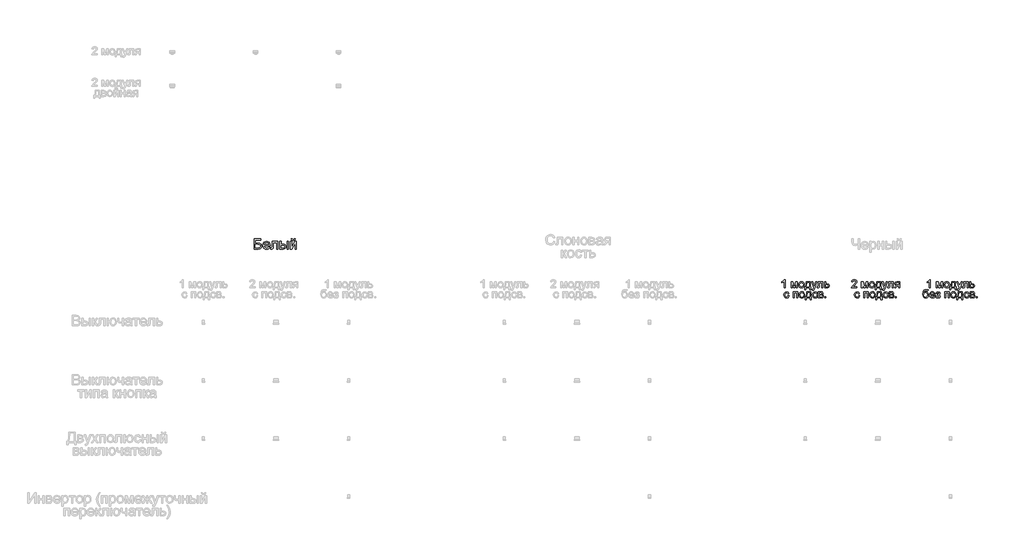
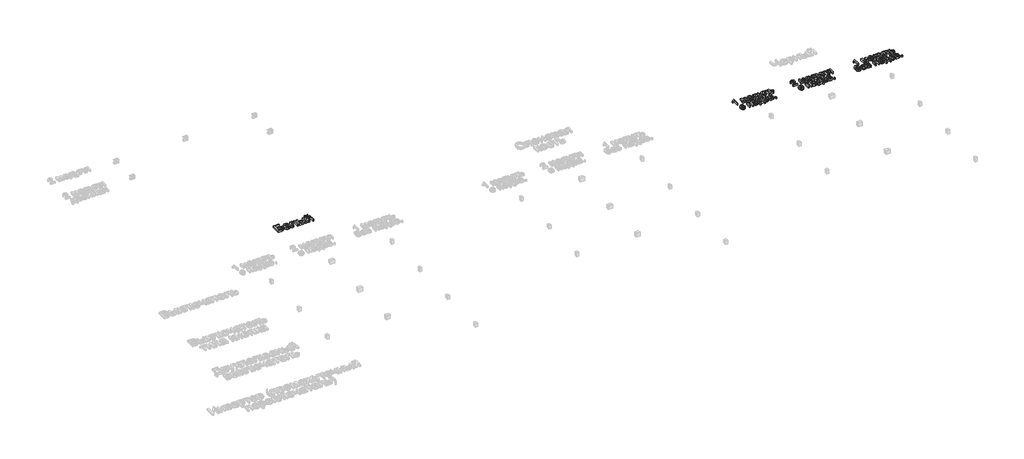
# One storey, part 21 of 47: 4 proxies.
"""IFC4 building model written with IfcOpenShell, lengths in millimetres."""

from ifc_helpers import new_model, si_unit, origin, origin_with_axes, place, context, project, spatial, polyline, outline, extrude, element, save

model = new_model("IFC4")

# Units and contexts
model_context = context("Model", 3, world=origin())
ifc_project = project(units=[si_unit("LENGTHUNIT", "METRE", prefix="MILLI")], contexts=[model_context])

# Site, building, storey
site = spatial("IfcSite", under=ifc_project)
building = spatial("IfcBuilding", under=site)
storey = spatial("IfcBuildingStorey", under=building, Name="Этаж 01", Elevation=0.0)

# Proxies
placement = place(None, origin())
element("IfcBuildingElementProxy", 1, Name="100 мм Arial", ObjectType="100 мм Arial", at=placement, inside=storey, context=model_context, shape_type="SweptSolid", body=[
    extrude(outline(polyline([(794.3727236, -27826.6351603), (857.1579174, -27826.6351603), (857.1579174, -27839.1921991), (806.9297624, -27839.1921991), (806.9297624, -27869.0151662), (830.4496846, -27869.0151662), (851.1737036, -27871.5658147), (863.5100132, -27881.204323), (868.1453263, -27897.6854363), (864.8466511, -27911.996046), (854.9996764, -27922.8730903), (832.7060275, -27927.0914705), (794.3727236, -27927.0914705), (794.3727236, -27826.6351603)]), holes=[polyline([(806.9297624, -27914.5344317), (833.8341989, -27914.5344317), (850.1436341, -27910.3896279), (854.2271242, -27905.2086231), (855.5882876, -27897.9552165), (852.4735534, -27888.1205045), (843.803801, -27882.8720547), (824.8824037, -27881.572205), (806.9297624, -27881.572205), (806.9297624, -27914.5344317)])]), origin_with_axes(), (0.0, 0.0, 1.0), 20.0),
    extrude(outline(polyline([(935.4922569, -27905.1166526), (947.804041, -27906.6862825), (943.3679973, -27915.9630401), (936.2893346, -27922.8976157), (926.7274684, -27927.2202292), (914.8418143, -27928.6611003), (900.1081404, -27926.1748312), (888.7712435, -27918.7160237), (881.5423623, -27906.7690559), (879.1327353, -27890.8183058), (881.5668878, -27874.331061), (888.8693454, -27862.0008828), (900.0529581, -27854.3121491), (914.1305757, -27851.7492379), (927.7698007, -27854.3060177), (938.6683048, -27861.9763573), (945.8144126, -27874.2820101), (948.1964485, -27890.7447294), (948.1228721, -27894.1292437), (891.689774, -27894.1292437), (893.8633435, -27903.5286287), (898.9125239, -27910.4386788), (906.1996531, -27914.6877159), (915.0870689, -27916.1040616), (927.398853, -27913.4798367), (935.4922569, -27905.1166526)]), holes=[polyline([(891.689774, -27881.572205), (935.6394097, -27881.572205), (930.6116891, -27870.1923886), (923.2908374, -27865.7778046), (914.0815248, -27864.3062766), (898.6182183, -27869.0029034), (893.7529789, -27874.4935422), (891.689774, -27881.572205)])]), origin_with_axes(), (0.0, 0.0, 1.0), 20.0),
    extrude(outline(polyline([(967.0320067, -27853.3188677), (1023.5386811, -27853.3188677), (1023.5386811, -27927.0178941), (1010.9816423, -27927.0178941), (1010.9816423, -27865.8759065), (979.5890454, -27865.8759065), (979.5890454, -27901.0699507), (978.7429168, -27917.3058094), (974.095341, -27924.1606773), (963.107932, -27927.0914705), (952.905338, -27926.4538084), (952.905338, -27914.5344317), (958.5216698, -27914.5344317), (964.1993153, -27913.7618795), (966.4679209, -27911.3093329), (967.0320067, -27900.3587122), (967.0320067, -27853.3188677)])), origin_with_axes(), (0.0, 0.0, 1.0), 20.0),
    extrude(outline(polyline([(1111.4379525, -27853.3188677), (1123.9949913, -27853.3188677), (1123.9949913, -27927.0914705), (1111.4379525, -27927.0914705), (1111.4379525, -27853.3188677)])), origin_with_axes(), (0.0, 0.0, 1.0), 20.0),
    extrude(outline(polyline([(1042.3742393, -27853.3188677), (1054.931278, -27853.3188677), (1054.931278, -27880.0025751), (1070.4558982, -27880.0025751), (1083.874394, -27881.5752706), (1093.8164049, -27886.2933572), (1099.9692313, -27893.7766901), (1102.0201734, -27903.6451247), (1100.3003251, -27912.6306424), (1095.1407801, -27920.2120772), (1086.2043133, -27925.3716222), (1073.1536995, -27927.0914705), (1042.3742393, -27927.0914705), (1042.3742393, -27853.3188677)]), holes=[polyline([(1054.931278, -27914.5344317), (1067.8316733, -27914.5344317), (1084.484465, -27911.8979441), (1089.4631346, -27903.6696501), (1085.772052, -27895.9441282), (1069.4748796, -27892.5596139), (1054.931278, -27892.5596139), (1054.931278, -27914.5344317)])]), origin_with_axes(), (0.0, 0.0, 1.0), 20.0),
    extrude(outline(polyline([(1183.6409254, -27826.6351603), (1193.0587045, -27826.6351603), (1186.9641261, -27840.6024134), (1173.4383314, -27845.4707185), (1158.796628, -27840.6392016), (1152.2483285, -27826.6351603), (1161.6661076, -27826.6351603), (1165.1977747, -27833.7107574), (1172.31016, -27836.0529394), (1180.1092583, -27833.7843338), (1183.6409254, -27826.6351603)])), origin_with_axes(), (0.0, 0.0, 1.0), 20.0),
    extrude(outline(polyline([(1142.8305494, -27853.3188677), (1155.3875882, -27853.3188677), (1155.3875882, -27909.5802875), (1186.2406248, -27853.3188677), (1202.4764836, -27853.3188677), (1202.4764836, -27927.0914705), (1189.9194448, -27927.0914705), (1189.9194448, -27871.1734072), (1159.2626119, -27927.0914705), (1142.8305494, -27927.0914705), (1142.8305494, -27853.3188677)])), origin_with_axes(), (0.0, 0.0, 1.0), 20.0),
])
element("IfcBuildingElementProxy", 2, Name="80 мм Arial", ObjectType="80 мм Arial", at=placement, inside=storey, context=model_context, shape_type="SweptSolid", body=[
    extrude(outline(polyline([(5910.6688941, -28300.056116), (5900.6232631, -28300.056116), (5900.6232631, -28237.4278852), (5891.1073822, -28244.2067241), (5880.5320011, -28249.2785905), (5880.5320011, -28239.78233), (5895.2570911, -28230.3841713), (5904.194171, -28219.6910679), (5910.6688941, -28219.6910679), (5910.6688941, -28300.056116)])), origin_with_axes(), (0.0, 0.0, 1.0), 20.0),
    extrude(outline(polyline([(5968.4312724, -28241.0380338), (5985.7168211, -28241.0380338), (5999.0390544, -28288.2838922), (6013.4011675, -28241.0380338), (6029.9607624, -28241.0380338), (6029.9607624, -28300.056116), (6019.9151314, -28300.056116), (6019.9151314, -28252.5355725), (6005.4745368, -28300.056116), (5992.2896461, -28300.056116), (5978.4769035, -28250.2596092), (5978.4769035, -28300.056116), (5968.4312724, -28300.056116), (5968.4312724, -28241.0380338)])), origin_with_axes(), (0.0, 0.0, 1.0), 20.0),
    extrude(outline(polyline([(6042.5178012, -28270.5470749), (6044.6907575, -28256.3173994), (6051.2096265, -28246.3159142), (6059.2637896, -28241.415726), (6068.907203, -28239.78233), (6079.4605111, -28241.7713453), (6087.8899139, -28247.7383912), (6093.4155015, -28257.2125789), (6095.257364, -28269.7230193), (6092.0003821, -28287.5971791), (6082.5139317, -28297.7114815), (6068.907203, -28301.3118199), (6058.2263624, -28299.3301622), (6049.8067698, -28293.3851892), (6044.3400433, -28283.7123453), (6042.5178012, -28270.5470749)]), holes=[polyline([(6052.5634322, -28270.5274546), (6057.2134606, -28286.0962206), (6068.907203, -28291.2661889), (6080.5617046, -28286.06679), (6085.211733, -28270.2135286), (6080.532274, -28254.9979293), (6068.907203, -28249.827961), (6057.2134606, -28254.9783089), (6052.5634322, -28270.5274546)])]), origin_with_axes(), (0.0, 0.0, 1.0), 20.0),
    extrude(outline(polyline([(6115.348626, -28241.0380338), (6153.0197423, -28241.0380338), (6153.0197423, -28290.010485), (6160.5539656, -28290.010485), (6160.5539656, -28316.3802664), (6150.5083346, -28316.3802664), (6150.5083346, -28300.056116), (6109.0701067, -28300.056116), (6109.0701067, -28316.3802664), (6099.0244756, -28316.3802664), (6099.0244756, -28290.010485), (6105.302995, -28290.010485), (6113.0628526, -28270.8511907), (6115.348626, -28241.0380338)]), holes=[polyline([(6124.1385532, -28251.0836649), (6121.7841084, -28273.97083), (6116.6043299, -28290.010485), (6142.9741113, -28290.010485), (6142.9741113, -28251.0836649), (6124.1385532, -28251.0836649)])]), origin_with_axes(), (0.0, 0.0, 1.0), 20.0),
    extrude(outline(polyline([(6171.8553005, -28322.6587858), (6170.5995966, -28312.9859419), (6175.7008936, -28313.8688587), (6180.4686443, -28312.7603076), (6183.3920799, -28309.6700989), (6186.1389321, -28302.2732182), (6186.923747, -28299.8402919), (6165.5767811, -28241.0380338), (6176.1717826, -28241.0380338), (6187.4927378, -28273.8040569), (6191.4364328, -28286.9104661), (6195.3801278, -28275.334446), (6207.0150091, -28241.0380338), (6217.531529, -28241.0380338), (6196.9889984, -28301.4687829), (6191.6522569, -28314.5751921), (6185.8250061, -28321.6581468), (6177.9964773, -28323.9144897), (6171.8553005, -28322.6587858)])), origin_with_axes(), (0.0, 0.0, 1.0), 20.0),
    extrude(outline(polyline([(6230.8733827, -28241.0380338), (6276.0787223, -28241.0380338), (6276.0787223, -28299.9972549), (6266.0330913, -28299.9972549), (6266.0330913, -28251.0836649), (6240.9190137, -28251.0836649), (6240.9190137, -28279.2389002), (6240.2421109, -28292.2275872), (6236.5240502, -28297.7114815), (6227.734123, -28300.056116), (6219.5720478, -28299.5459863), (6219.5720478, -28290.010485), (6224.0651133, -28290.010485), (6228.6072296, -28289.3924433), (6230.4221141, -28287.430406), (6230.8733827, -28278.6699094), (6230.8733827, -28241.0380338)])), origin_with_axes(), (0.0, 0.0, 1.0), 20.0),
    extrude(outline(polyline([(6291.1471688, -28241.0380338), (6301.1927998, -28241.0380338), (6301.1927998, -28262.3849997), (6312.7688199, -28262.3849997), (6330.230952, -28267.4176254), (6334.8221193, -28273.4042918), (6336.3525084, -28281.2990394), (6331.1432993, -28294.5526014), (6324.3718181, -28298.6802374), (6314.4757924, -28300.056116), (6291.1471688, -28300.056116), (6291.1471688, -28241.0380338)]), holes=[polyline([(6301.1927998, -28290.010485), (6310.5713381, -28290.010485), (6322.6869185, -28287.9012949), (6326.3068774, -28281.3186598), (6323.6286964, -28275.1382422), (6311.7681809, -28272.4306308), (6301.1927998, -28272.4306308), (6301.1927998, -28290.010485)])]), origin_with_axes(), (0.0, 0.0, 1.0), 20.0),
    extrude(outline(polyline([(5938.9222313, -28376.2890044), (5948.9678624, -28377.5447083), (5946.1670541, -28386.4793357), (5940.903889, -28393.2311966), (5924.9721461, -28398.8916742), (5914.2864004, -28396.9173742), (5905.930574, -28390.994474), (5900.537424, -28381.3829438), (5898.7397073, -28368.3427533), (5901.8102957, -28351.655626), (5911.1692136, -28340.9330921), (5924.8348035, -28337.3621842), (5940.1092639, -28342.2672775), (5947.7121585, -28356.1977424), (5937.6665275, -28357.4534463), (5933.0066889, -28349.9290332), (5924.913285, -28347.4078153), (5913.2685935, -28352.3717696), (5908.7853383, -28368.0680681), (5913.1704917, -28383.9115194), (5924.6385997, -28388.8460432), (5934.1054298, -28385.7656446), (5938.9222313, -28376.2890044)])), origin_with_axes(), (0.0, 0.0, 1.0), 20.0),
    extrude(outline(polyline([(5989.1503864, -28338.6178881), (6034.355726, -28338.6178881), (6034.355726, -28397.6359703), (6024.310095, -28397.6359703), (6024.310095, -28348.6635191), (5999.1960174, -28348.6635191), (5999.1960174, -28397.6359703), (5989.1503864, -28397.6359703), (5989.1503864, -28338.6178881)])), origin_with_axes(), (0.0, 0.0, 1.0), 20.0),
    extrude(outline(polyline([(6046.9127648, -28368.1269292), (6049.0857211, -28353.8972536), (6055.60459, -28343.8957685), (6063.6587532, -28338.9955803), (6073.3021665, -28337.3621842), (6083.8554747, -28339.3511996), (6092.2848775, -28345.3182455), (6097.8104651, -28354.7924332), (6099.6523276, -28367.3028736), (6096.3953457, -28385.1770334), (6086.9088953, -28395.2913357), (6073.3021665, -28398.8916742), (6062.6213259, -28396.9100165), (6054.2017334, -28390.9650435), (6048.7350069, -28381.2921996), (6046.9127648, -28368.1269292)]), holes=[polyline([(6056.9583958, -28368.1073088), (6061.6084242, -28383.6760749), (6073.3021665, -28388.8460432), (6084.9566681, -28383.6466443), (6089.6066966, -28367.7933829), (6084.9272376, -28352.5777836), (6073.3021665, -28347.4078153), (6061.6084242, -28352.5581632), (6056.9583958, -28368.1073088)])]), origin_with_axes(), (0.0, 0.0, 1.0), 20.0),
    extrude(outline(polyline([(6119.7435896, -28338.6178881), (6157.4147059, -28338.6178881), (6157.4147059, -28387.5903393), (6164.9489292, -28387.5903393), (6164.9489292, -28413.9601207), (6154.9032982, -28413.9601207), (6154.9032982, -28397.6359703), (6113.4650702, -28397.6359703), (6113.4650702, -28413.9601207), (6103.4194392, -28413.9601207), (6103.4194392, -28387.5903393), (6109.6979586, -28387.5903393), (6117.4578161, -28368.431045), (6119.7435896, -28338.6178881)]), holes=[polyline([(6128.5335167, -28348.6635191), (6126.179072, -28371.5506843), (6120.9992935, -28387.5903393), (6147.3690749, -28387.5903393), (6147.3690749, -28348.6635191), (6128.5335167, -28348.6635191)])]), origin_with_axes(), (0.0, 0.0, 1.0), 20.0),
    extrude(outline(polyline([(6213.9213804, -28376.2890044), (6223.9670114, -28377.5447083), (6221.1662031, -28386.4793357), (6215.9030381, -28393.2311966), (6199.9712951, -28398.8916742), (6189.2855494, -28396.9173742), (6180.929723, -28390.994474), (6175.536573, -28381.3829438), (6173.7388563, -28368.3427533), (6176.8094447, -28351.655626), (6186.1683627, -28340.9330921), (6199.8339525, -28337.3621842), (6215.1084129, -28342.2672775), (6222.7113075, -28356.1977424), (6212.6656765, -28357.4534463), (6208.0058379, -28349.9290332), (6199.912434, -28347.4078153), (6188.2677426, -28352.3717696), (6183.7844873, -28368.0680681), (6188.1696407, -28383.9115194), (6199.6377488, -28388.8460432), (6209.1045788, -28385.7656446), (6213.9213804, -28376.2890044)])), origin_with_axes(), (0.0, 0.0, 1.0), 20.0),
    extrude(outline(polyline([(6232.7569385, -28338.6178881), (6254.8887194, -28338.6178881), (6267.0239201, -28339.9618837), (6273.8518099, -28344.8865973), (6276.7065742, -28353.4705105), (6274.9799814, -28360.4455532), (6269.7805825, -28365.4193177), (6276.5299909, -28370.8639713), (6279.217982, -28380.3308013), (6273.4692127, -28393.3783494), (6258.2830439, -28397.6359703), (6232.7569385, -28397.6359703), (6232.7569385, -28338.6178881)]), holes=[polyline([(6242.8025695, -28361.2205579), (6252.7304783, -28361.2205579), (6260.9219841, -28360.7104282), (6264.9049198, -28358.6699094), (6266.6609432, -28354.9812793), (6263.5805446, -28350.0565656), (6253.0444043, -28348.6635191), (6242.8025695, -28348.6635191), (6242.8025695, -28361.2205579)]), polyline([(6242.8025695, -28387.5903393), (6255.1241638, -28387.5903393), (6266.0527116, -28385.7754548), (6269.172351, -28379.5067456), (6267.4555683, -28374.6703236), (6262.9821233, -28371.8548001), (6254.1431452, -28371.2661889), (6242.8025695, -28371.2661889), (6242.8025695, -28387.5903393)])]), origin_with_axes(), (0.0, 0.0, 1.0), 20.0),
    extrude(outline(polyline([(6294.2864285, -28397.6359703), (6294.2864285, -28387.5903393), (6304.3320595, -28387.5903393), (6304.3320595, -28397.6359703), (6294.2864285, -28397.6359703)])), origin_with_axes(), (0.0, 0.0, 1.0), 20.0),
])
element("IfcBuildingElementProxy", 3, Name="80 мм Arial", ObjectType="80 мм Arial", at=placement, inside=storey, context=model_context, shape_type="SweptSolid", body=[
    extrude(outline(polyline([(6603.2259329, -28290.010485), (6603.2259329, -28300.056116), (6550.4863701, -28300.056116), (6551.5654906, -28293.1301244), (6557.6674266, -28282.4664516), (6570.2440857, -28270.8217602), (6587.5884955, -28254.0855819), (6591.924598, -28242.7057655), (6587.8337502, -28233.4940004), (6577.1504571, -28229.7366989), (6566.0158953, -28233.4057087), (6561.7877049, -28243.5494416), (6551.7420739, -28242.2937377), (6554.1774527, -28232.5767479), (6559.4430704, -28225.479078), (6567.2642416, -28221.1380704), (6577.3662812, -28219.6910679), (6587.5418972, -28221.2999385), (6595.3483531, -28226.1265503), (6600.31476, -28233.3370374), (6601.970229, -28242.097534), (6600.1847751, -28251.6232251), (6594.2496122, -28261.4726524), (6579.8580685, -28275.2363441), (6568.3016688, -28284.8993778), (6563.7693626, -28290.010485), (6603.2259329, -28290.010485)])), origin_with_axes(), (0.0, 0.0, 1.0), 20.0),
    extrude(outline(polyline([(6647.1755686, -28241.0380338), (6664.4611173, -28241.0380338), (6677.7833506, -28288.2838922), (6692.1454637, -28241.0380338), (6708.7050585, -28241.0380338), (6708.7050585, -28300.056116), (6698.6594275, -28300.056116), (6698.6594275, -28252.5355725), (6684.2188329, -28300.056116), (6671.0339422, -28300.056116), (6657.2211996, -28250.2596092), (6657.2211996, -28300.056116), (6647.1755686, -28300.056116), (6647.1755686, -28241.0380338)])), origin_with_axes(), (0.0, 0.0, 1.0), 20.0),
    extrude(outline(polyline([(6721.2620973, -28270.5470749), (6723.4350536, -28256.3173994), (6729.9539226, -28246.3159142), (6738.0080857, -28241.415726), (6747.6514991, -28239.78233), (6758.2048073, -28241.7713453), (6766.63421, -28247.7383912), (6772.1597976, -28257.2125789), (6774.0016601, -28269.7230193), (6770.7446782, -28287.5971791), (6761.2582278, -28297.7114815), (6747.6514991, -28301.3118199), (6736.9706585, -28299.3301622), (6728.5510659, -28293.3851892), (6723.0843395, -28283.7123453), (6721.2620973, -28270.5470749)]), holes=[polyline([(6731.3077283, -28270.5274546), (6735.9577567, -28286.0962206), (6747.6514991, -28291.2661889), (6759.3060007, -28286.06679), (6763.9560291, -28270.2135286), (6759.2765701, -28254.9979293), (6747.6514991, -28249.827961), (6735.9577567, -28254.9783089), (6731.3077283, -28270.5274546)])]), origin_with_axes(), (0.0, 0.0, 1.0), 20.0),
    extrude(outline(polyline([(6794.0929222, -28241.0380338), (6831.7640385, -28241.0380338), (6831.7640385, -28290.010485), (6839.2982617, -28290.010485), (6839.2982617, -28316.3802664), (6829.2526307, -28316.3802664), (6829.2526307, -28300.056116), (6787.8144028, -28300.056116), (6787.8144028, -28316.3802664), (6777.7687718, -28316.3802664), (6777.7687718, -28290.010485), (6784.0472911, -28290.010485), (6791.8071487, -28270.8511907), (6794.0929222, -28241.0380338)]), holes=[polyline([(6802.8828493, -28251.0836649), (6800.5284045, -28273.97083), (6795.348626, -28290.010485), (6821.7184075, -28290.010485), (6821.7184075, -28251.0836649), (6802.8828493, -28251.0836649)])]), origin_with_axes(), (0.0, 0.0, 1.0), 20.0),
    extrude(outline(polyline([(6850.5995966, -28322.6587858), (6849.3438927, -28312.9859419), (6854.4451897, -28313.8688587), (6859.2129404, -28312.7603076), (6862.136376, -28309.6700989), (6864.8832282, -28302.2732182), (6865.6680431, -28299.8402919), (6844.3210772, -28241.0380338), (6854.9160787, -28241.0380338), (6866.237034, -28273.8040569), (6870.180729, -28286.9104661), (6874.1244239, -28275.334446), (6885.7593052, -28241.0380338), (6896.2758251, -28241.0380338), (6875.7332945, -28301.4687829), (6870.3965531, -28314.5751921), (6864.5693023, -28321.6581468), (6856.7407734, -28323.9144897), (6850.5995966, -28322.6587858)])), origin_with_axes(), (0.0, 0.0, 1.0), 20.0),
    extrude(outline(polyline([(6909.6176788, -28241.0380338), (6954.8230184, -28241.0380338), (6954.8230184, -28299.9972549), (6944.7773874, -28299.9972549), (6944.7773874, -28251.0836649), (6919.6633099, -28251.0836649), (6919.6633099, -28279.2389002), (6918.986407, -28292.2275872), (6915.2683463, -28297.7114815), (6906.4784191, -28300.056116), (6898.3163439, -28299.5459863), (6898.3163439, -28290.010485), (6902.8094094, -28290.010485), (6907.3515257, -28289.3924433), (6909.1664103, -28287.430406), (6909.6176788, -28278.6699094), (6909.6176788, -28241.0380338)])), origin_with_axes(), (0.0, 0.0, 1.0), 20.0),
    extrude(outline(polyline([(7015.0968045, -28241.0380338), (7015.0968045, -28300.056116), (7005.0511735, -28300.056116), (7005.0511735, -28277.4534463), (6999.5770894, -28277.4534463), (6992.1213476, -28278.7287705), (6985.1168744, -28287.3028736), (6977.1117622, -28300.056116), (6965.4965014, -28300.056116), (6975.5813731, -28283.9281694), (6984.1358558, -28275.5698905), (6972.4421134, -28269.4679544), (6968.635761, -28258.088138), (6973.8351599, -28245.7665437), (6988.8839861, -28241.0380338), (7015.0968045, -28241.0380338)]), holes=[polyline([(7005.0511735, -28251.0836649), (6991.8074217, -28251.0836649), (6981.0848878, -28253.4086791), (6978.6813921, -28258.8533326), (6982.2228694, -28265.3378659), (6994.770098, -28267.4078153), (7005.0511735, -28267.4078153), (7005.0511735, -28251.0836649)])]), origin_with_axes(), (0.0, 0.0, 1.0), 20.0),
    extrude(outline(polyline([(6618.9222313, -28376.2890044), (6628.9678624, -28377.5447083), (6626.1670541, -28386.4793357), (6620.903889, -28393.2311966), (6604.9721461, -28398.8916742), (6594.2864004, -28396.9173742), (6585.930574, -28390.994474), (6580.537424, -28381.3829438), (6578.7397073, -28368.3427533), (6581.8102957, -28351.655626), (6591.1692136, -28340.9330921), (6604.8348035, -28337.3621842), (6620.1092639, -28342.2672775), (6627.7121585, -28356.1977424), (6617.6665275, -28357.4534463), (6613.0066889, -28349.9290332), (6604.913285, -28347.4078153), (6593.2685935, -28352.3717696), (6588.7853383, -28368.0680681), (6593.1704917, -28383.9115194), (6604.6385997, -28388.8460432), (6614.1054298, -28385.7656446), (6618.9222313, -28376.2890044)])), origin_with_axes(), (0.0, 0.0, 1.0), 20.0),
    extrude(outline(polyline([(6669.1503864, -28338.6178881), (6714.355726, -28338.6178881), (6714.355726, -28397.6359703), (6704.310095, -28397.6359703), (6704.310095, -28348.6635191), (6679.1960174, -28348.6635191), (6679.1960174, -28397.6359703), (6669.1503864, -28397.6359703), (6669.1503864, -28338.6178881)])), origin_with_axes(), (0.0, 0.0, 1.0), 20.0),
    extrude(outline(polyline([(6726.9127648, -28368.1269292), (6729.0857211, -28353.8972536), (6735.60459, -28343.8957685), (6743.6587532, -28338.9955803), (6753.3021665, -28337.3621842), (6763.8554747, -28339.3511996), (6772.2848775, -28345.3182455), (6777.8104651, -28354.7924332), (6779.6523276, -28367.3028736), (6776.3953457, -28385.1770334), (6766.9088953, -28395.2913357), (6753.3021665, -28398.8916742), (6742.6213259, -28396.9100165), (6734.2017334, -28390.9650435), (6728.7350069, -28381.2921996), (6726.9127648, -28368.1269292)]), holes=[polyline([(6736.9583958, -28368.1073088), (6741.6084242, -28383.6760749), (6753.3021665, -28388.8460432), (6764.9566681, -28383.6466443), (6769.6066966, -28367.7933829), (6764.9272376, -28352.5777836), (6753.3021665, -28347.4078153), (6741.6084242, -28352.5581632), (6736.9583958, -28368.1073088)])]), origin_with_axes(), (0.0, 0.0, 1.0), 20.0),
    extrude(outline(polyline([(6799.7435896, -28338.6178881), (6837.4147059, -28338.6178881), (6837.4147059, -28387.5903393), (6844.9489292, -28387.5903393), (6844.9489292, -28413.9601207), (6834.9032982, -28413.9601207), (6834.9032982, -28397.6359703), (6793.4650702, -28397.6359703), (6793.4650702, -28413.9601207), (6783.4194392, -28413.9601207), (6783.4194392, -28387.5903393), (6789.6979586, -28387.5903393), (6797.4578161, -28368.431045), (6799.7435896, -28338.6178881)]), holes=[polyline([(6808.5335167, -28348.6635191), (6806.179072, -28371.5506843), (6800.9992935, -28387.5903393), (6827.3690749, -28387.5903393), (6827.3690749, -28348.6635191), (6808.5335167, -28348.6635191)])]), origin_with_axes(), (0.0, 0.0, 1.0), 20.0),
    extrude(outline(polyline([(6893.9213804, -28376.2890044), (6903.9670114, -28377.5447083), (6901.1662031, -28386.4793357), (6895.9030381, -28393.2311966), (6879.9712951, -28398.8916742), (6869.2855494, -28396.9173742), (6860.929723, -28390.994474), (6855.536573, -28381.3829438), (6853.7388563, -28368.3427533), (6856.8094447, -28351.655626), (6866.1683627, -28340.9330921), (6879.8339525, -28337.3621842), (6895.1084129, -28342.2672775), (6902.7113075, -28356.1977424), (6892.6656765, -28357.4534463), (6888.0058379, -28349.9290332), (6879.912434, -28347.4078153), (6868.2677426, -28352.3717696), (6863.7844873, -28368.0680681), (6868.1696407, -28383.9115194), (6879.6377488, -28388.8460432), (6889.1045788, -28385.7656446), (6893.9213804, -28376.2890044)])), origin_with_axes(), (0.0, 0.0, 1.0), 20.0),
    extrude(outline(polyline([(6912.7569385, -28338.6178881), (6934.8887194, -28338.6178881), (6947.0239201, -28339.9618837), (6953.8518099, -28344.8865973), (6956.7065742, -28353.4705105), (6954.9799814, -28360.4455532), (6949.7805825, -28365.4193177), (6956.5299909, -28370.8639713), (6959.217982, -28380.3308013), (6953.4692127, -28393.3783494), (6938.2830439, -28397.6359703), (6912.7569385, -28397.6359703), (6912.7569385, -28338.6178881)]), holes=[polyline([(6922.8025695, -28361.2205579), (6932.7304783, -28361.2205579), (6940.9219841, -28360.7104282), (6944.9049198, -28358.6699094), (6946.6609432, -28354.9812793), (6943.5805446, -28350.0565656), (6933.0444043, -28348.6635191), (6922.8025695, -28348.6635191), (6922.8025695, -28361.2205579)]), polyline([(6922.8025695, -28387.5903393), (6935.1241638, -28387.5903393), (6946.0527116, -28385.7754548), (6949.172351, -28379.5067456), (6947.4555683, -28374.6703236), (6942.9821233, -28371.8548001), (6934.1431452, -28371.2661889), (6922.8025695, -28371.2661889), (6922.8025695, -28387.5903393)])]), origin_with_axes(), (0.0, 0.0, 1.0), 20.0),
    extrude(outline(polyline([(6974.2864285, -28397.6359703), (6974.2864285, -28387.5903393), (6984.3320595, -28387.5903393), (6984.3320595, -28397.6359703), (6974.2864285, -28397.6359703)])), origin_with_axes(), (0.0, 0.0, 1.0), 20.0),
])
element("IfcBuildingElementProxy", 4, Name="80 мм Arial", ObjectType="80 мм Arial", at=placement, inside=storey, context=model_context, shape_type="SweptSolid", body=[
    extrude(outline(polyline([(7310.6688941, -28300.056116), (7300.6232631, -28300.056116), (7300.6232631, -28237.4278852), (7291.1073822, -28244.2067241), (7280.5320011, -28249.2785905), (7280.5320011, -28239.78233), (7295.2570911, -28230.3841713), (7304.194171, -28219.6910679), (7310.6688941, -28219.6910679), (7310.6688941, -28300.056116)])), origin_with_axes(), (0.0, 0.0, 1.0), 20.0),
    extrude(outline(polyline([(7368.4312724, -28241.0380338), (7385.7168211, -28241.0380338), (7399.0390544, -28288.2838922), (7413.4011675, -28241.0380338), (7429.9607624, -28241.0380338), (7429.9607624, -28300.056116), (7419.9151314, -28300.056116), (7419.9151314, -28252.5355725), (7405.4745368, -28300.056116), (7392.2896461, -28300.056116), (7378.4769035, -28250.2596092), (7378.4769035, -28300.056116), (7368.4312724, -28300.056116), (7368.4312724, -28241.0380338)])), origin_with_axes(), (0.0, 0.0, 1.0), 20.0),
    extrude(outline(polyline([(7442.5178012, -28270.5470749), (7444.6907575, -28256.3173994), (7451.2096265, -28246.3159142), (7459.2637896, -28241.415726), (7468.907203, -28239.78233), (7479.4605111, -28241.7713453), (7487.8899139, -28247.7383912), (7493.4155015, -28257.2125789), (7495.257364, -28269.7230193), (7492.0003821, -28287.5971791), (7482.5139317, -28297.7114815), (7468.907203, -28301.3118199), (7458.2263624, -28299.3301622), (7449.8067698, -28293.3851892), (7444.3400433, -28283.7123453), (7442.5178012, -28270.5470749)]), holes=[polyline([(7452.5634322, -28270.5274546), (7457.2134606, -28286.0962206), (7468.907203, -28291.2661889), (7480.5617046, -28286.06679), (7485.211733, -28270.2135286), (7480.532274, -28254.9979293), (7468.907203, -28249.827961), (7457.2134606, -28254.9783089), (7452.5634322, -28270.5274546)])]), origin_with_axes(), (0.0, 0.0, 1.0), 20.0),
    extrude(outline(polyline([(7515.348626, -28241.0380338), (7553.0197423, -28241.0380338), (7553.0197423, -28290.010485), (7560.5539656, -28290.010485), (7560.5539656, -28316.3802664), (7550.5083346, -28316.3802664), (7550.5083346, -28300.056116), (7509.0701067, -28300.056116), (7509.0701067, -28316.3802664), (7499.0244756, -28316.3802664), (7499.0244756, -28290.010485), (7505.302995, -28290.010485), (7513.0628526, -28270.8511907), (7515.348626, -28241.0380338)]), holes=[polyline([(7524.1385532, -28251.0836649), (7521.7841084, -28273.97083), (7516.6043299, -28290.010485), (7542.9741113, -28290.010485), (7542.9741113, -28251.0836649), (7524.1385532, -28251.0836649)])]), origin_with_axes(), (0.0, 0.0, 1.0), 20.0),
    extrude(outline(polyline([(7571.8553005, -28322.6587858), (7570.5995966, -28312.9859419), (7575.7008936, -28313.8688587), (7580.4686443, -28312.7603076), (7583.3920799, -28309.6700989), (7586.1389321, -28302.2732182), (7586.923747, -28299.8402919), (7565.5767811, -28241.0380338), (7576.1717826, -28241.0380338), (7587.4927378, -28273.8040569), (7591.4364328, -28286.9104661), (7595.3801278, -28275.334446), (7607.0150091, -28241.0380338), (7617.531529, -28241.0380338), (7596.9889984, -28301.4687829), (7591.6522569, -28314.5751921), (7585.8250061, -28321.6581468), (7577.9964773, -28323.9144897), (7571.8553005, -28322.6587858)])), origin_with_axes(), (0.0, 0.0, 1.0), 20.0),
    extrude(outline(polyline([(7630.8733827, -28241.0380338), (7676.0787223, -28241.0380338), (7676.0787223, -28299.9972549), (7666.0330913, -28299.9972549), (7666.0330913, -28251.0836649), (7640.9190137, -28251.0836649), (7640.9190137, -28279.2389002), (7640.2421109, -28292.2275872), (7636.5240502, -28297.7114815), (7627.734123, -28300.056116), (7619.5720478, -28299.5459863), (7619.5720478, -28290.010485), (7624.0651133, -28290.010485), (7628.6072296, -28289.3924433), (7630.4221141, -28287.430406), (7630.8733827, -28278.6699094), (7630.8733827, -28241.0380338)])), origin_with_axes(), (0.0, 0.0, 1.0), 20.0),
    extrude(outline(polyline([(7691.1471688, -28241.0380338), (7701.1927998, -28241.0380338), (7701.1927998, -28262.3849997), (7712.7688199, -28262.3849997), (7730.230952, -28267.4176254), (7734.8221193, -28273.4042918), (7736.3525084, -28281.2990394), (7731.1432993, -28294.5526014), (7724.3718181, -28298.6802374), (7714.4757924, -28300.056116), (7691.1471688, -28300.056116), (7691.1471688, -28241.0380338)]), holes=[polyline([(7701.1927998, -28290.010485), (7710.5713381, -28290.010485), (7722.6869185, -28287.9012949), (7726.3068774, -28281.3186598), (7723.6286964, -28275.1382422), (7711.7681809, -28272.4306308), (7701.1927998, -28272.4306308), (7701.1927998, -28290.010485)])]), origin_with_axes(), (0.0, 0.0, 1.0), 20.0),
    extrude(outline(polyline([(7282.4155569, -28316.0152183), (7291.205484, -28316.0152183), (7288.6155948, -28323.8535574), (7283.4946774, -28326.6887013), (7271.1927035, -28327.3165532), (7254.6232984, -28329.6317572), (7248.2662975, -28337.0482583), (7246.1178667, -28350.1742879), (7254.8195022, -28340.560305), (7266.0325454, -28337.3621842), (7276.4852991, -28339.3953454), (7284.9662054, -28345.4948289), (7290.5874423, -28355.0622133), (7292.4611879, -28367.4990773), (7288.7431272, -28384.784626), (7279.9237695, -28395.2128543), (7266.0325454, -28398.8916742), (7250.1694737, -28394.1533541), (7241.4874586, -28382.0279635), (7238.4659212, -28356.2958443), (7240.3715499, -28337.0212803), (7246.0884361, -28325.2662242), (7255.7588275, -28319.2697477), (7269.5249718, -28317.2709222), (7280.7085844, -28317.0452879), (7282.4155569, -28316.0152183)]), holes=[polyline([(7282.4155569, -28367.1851513), (7278.0598341, -28352.9505706), (7272.8113843, -28348.7935041), (7265.7774805, -28347.4078153), (7258.4443661, -28348.8719856), (7253.0046176, -28353.2644966), (7248.5115522, -28368.9117441), (7253.4755066, -28383.7153156), (7265.7186194, -28388.8460432), (7272.4533125, -28387.3622525), (7277.7851488, -28382.9108803), (7282.4155569, -28367.1851513)])]), origin_with_axes(), (0.0, 0.0, 1.0), 20.0),
    extrude(outline(polyline([(7346.3387324, -28380.056116), (7356.1881596, -28381.3118199), (7346.9763945, -28394.2808865), (7329.8183782, -28398.8916742), (7318.0314391, -28396.9026589), (7308.9619217, -28390.9356129), (7303.1788167, -28381.3780387), (7301.251115, -28368.6174385), (7303.1984371, -28355.4276427), (7309.0404031, -28345.5635002), (7317.9872933, -28339.4125132), (7329.2493874, -28337.3621842), (7340.1607674, -28339.4076081), (7348.8795707, -28345.5438798), (7354.5964569, -28355.388402), (7356.5020856, -28368.5585774), (7356.4432245, -28371.2661889), (7311.2967461, -28371.2661889), (7317.0749459, -28384.313737), (7330.014582, -28388.8460432), (7339.8640092, -28386.7466633), (7346.3387324, -28380.056116)]), holes=[polyline([(7311.2967461, -28361.2205579), (7346.4564546, -28361.2205579), (7342.4342781, -28352.1167048), (7329.2101467, -28347.4078153), (7316.8395014, -28351.1651167), (7311.2967461, -28361.2205579)])]), origin_with_axes(), (0.0, 0.0, 1.0), 20.0),
    extrude(outline(polyline([(7380.3604593, -28371.2661889), (7380.3604593, -28361.2205579), (7388.28709, -28360.8281504), (7392.2896461, -28358.7385807), (7394.1732019, -28354.3730477), (7391.651984, -28349.3011813), (7385.1478303, -28347.4078153), (7378.4278525, -28349.2913711), (7374.0819399, -28354.9420385), (7362.780605, -28353.6863346), (7370.3344486, -28341.4432218), (7384.1275709, -28337.3621842), (7398.8820915, -28342.3359488), (7404.2188329, -28354.2160847), (7402.3205618, -28360.4553633), (7396.6257486, -28365.2819751), (7403.2672448, -28371.5408741), (7405.4745368, -28380.5466254), (7404.0741327, -28387.9410535), (7399.8729203, -28393.8001874), (7384.2060524, -28398.8916742), (7368.7550086, -28394.1827847), (7361.5249011, -28380.056116), (7372.826236, -28378.8004122), (7377.3585422, -28386.2169132), (7385.1674507, -28388.8460432), (7392.5054702, -28386.3248252), (7395.4289058, -28379.8795327), (7393.6140213, -28374.6016523), (7389.7488078, -28371.7763186), (7382.3224966, -28371.2073278), (7380.3604593, -28371.2661889)])), origin_with_axes(), (0.0, 0.0, 1.0), 20.0),
    extrude(outline(polyline([(7449.4241725, -28338.6178881), (7494.6295121, -28338.6178881), (7494.6295121, -28397.6359703), (7484.5838811, -28397.6359703), (7484.5838811, -28348.6635191), (7459.4698035, -28348.6635191), (7459.4698035, -28397.6359703), (7449.4241725, -28397.6359703), (7449.4241725, -28338.6178881)])), origin_with_axes(), (0.0, 0.0, 1.0), 20.0),
    extrude(outline(polyline([(7507.1865508, -28368.1269292), (7509.3595072, -28353.8972536), (7515.8783761, -28343.8957685), (7523.9325393, -28338.9955803), (7533.5759526, -28337.3621842), (7544.1292608, -28339.3511996), (7552.5586636, -28345.3182455), (7558.0842511, -28354.7924332), (7559.9261137, -28367.3028736), (7556.6691317, -28385.1770334), (7547.1826814, -28395.2913357), (7533.5759526, -28398.8916742), (7522.895112, -28396.9100165), (7514.4755194, -28390.9650435), (7509.008793, -28381.2921996), (7507.1865508, -28368.1269292)]), holes=[polyline([(7517.2321819, -28368.1073088), (7521.8822103, -28383.6760749), (7533.5759526, -28388.8460432), (7545.2304542, -28383.6466443), (7549.8804827, -28367.7933829), (7545.2010237, -28352.5777836), (7533.5759526, -28347.4078153), (7521.8822103, -28352.5581632), (7517.2321819, -28368.1073088)])]), origin_with_axes(), (0.0, 0.0, 1.0), 20.0),
    extrude(outline(polyline([(7580.0173757, -28338.6178881), (7617.688492, -28338.6178881), (7617.688492, -28387.5903393), (7625.2227153, -28387.5903393), (7625.2227153, -28413.9601207), (7615.1770843, -28413.9601207), (7615.1770843, -28397.6359703), (7573.7388563, -28397.6359703), (7573.7388563, -28413.9601207), (7563.6932253, -28413.9601207), (7563.6932253, -28387.5903393), (7569.9717447, -28387.5903393), (7577.7316022, -28368.431045), (7580.0173757, -28338.6178881)]), holes=[polyline([(7588.8073028, -28348.6635191), (7586.4528581, -28371.5506843), (7581.2730796, -28387.5903393), (7607.642861, -28387.5903393), (7607.642861, -28348.6635191), (7588.8073028, -28348.6635191)])]), origin_with_axes(), (0.0, 0.0, 1.0), 20.0),
    extrude(outline(polyline([(7674.1951665, -28376.2890044), (7684.2407975, -28377.5447083), (7681.4399892, -28386.4793357), (7676.1768241, -28393.2311966), (7660.2450812, -28398.8916742), (7649.5593355, -28396.9173742), (7641.2035091, -28390.994474), (7635.8103591, -28381.3829438), (7634.0126424, -28368.3427533), (7637.0832308, -28351.655626), (7646.4421487, -28340.9330921), (7660.1077386, -28337.3621842), (7675.382199, -28342.2672775), (7682.9850936, -28356.1977424), (7672.9394626, -28357.4534463), (7668.279624, -28349.9290332), (7660.1862201, -28347.4078153), (7648.5415287, -28352.3717696), (7644.0582734, -28368.0680681), (7648.4434268, -28383.9115194), (7659.9115349, -28388.8460432), (7669.3783649, -28385.7656446), (7674.1951665, -28376.2890044)])), origin_with_axes(), (0.0, 0.0, 1.0), 20.0),
    extrude(outline(polyline([(7693.0307246, -28338.6178881), (7715.1625054, -28338.6178881), (7727.2977062, -28339.9618837), (7734.125596, -28344.8865973), (7736.9803603, -28353.4705105), (7735.2537675, -28360.4455532), (7730.0543686, -28365.4193177), (7736.803777, -28370.8639713), (7739.4917681, -28380.3308013), (7733.7429988, -28393.3783494), (7718.55683, -28397.6359703), (7693.0307246, -28397.6359703), (7693.0307246, -28338.6178881)]), holes=[polyline([(7703.0763556, -28361.2205579), (7713.0042644, -28361.2205579), (7721.1957702, -28360.7104282), (7725.1787059, -28358.6699094), (7726.9347293, -28354.9812793), (7723.8543307, -28350.0565656), (7713.3181904, -28348.6635191), (7703.0763556, -28348.6635191), (7703.0763556, -28361.2205579)]), polyline([(7703.0763556, -28387.5903393), (7715.3979499, -28387.5903393), (7726.3264977, -28385.7754548), (7729.446137, -28379.5067456), (7727.7293544, -28374.6703236), (7723.2559093, -28371.8548001), (7714.4169313, -28371.2661889), (7703.0763556, -28371.2661889), (7703.0763556, -28387.5903393)])]), origin_with_axes(), (0.0, 0.0, 1.0), 20.0),
    extrude(outline(polyline([(7754.5602146, -28397.6359703), (7754.5602146, -28387.5903393), (7764.6058456, -28387.5903393), (7764.6058456, -28397.6359703), (7754.5602146, -28397.6359703)])), origin_with_axes(), (0.0, 0.0, 1.0), 20.0),
])

save(model, "model.ifc")
